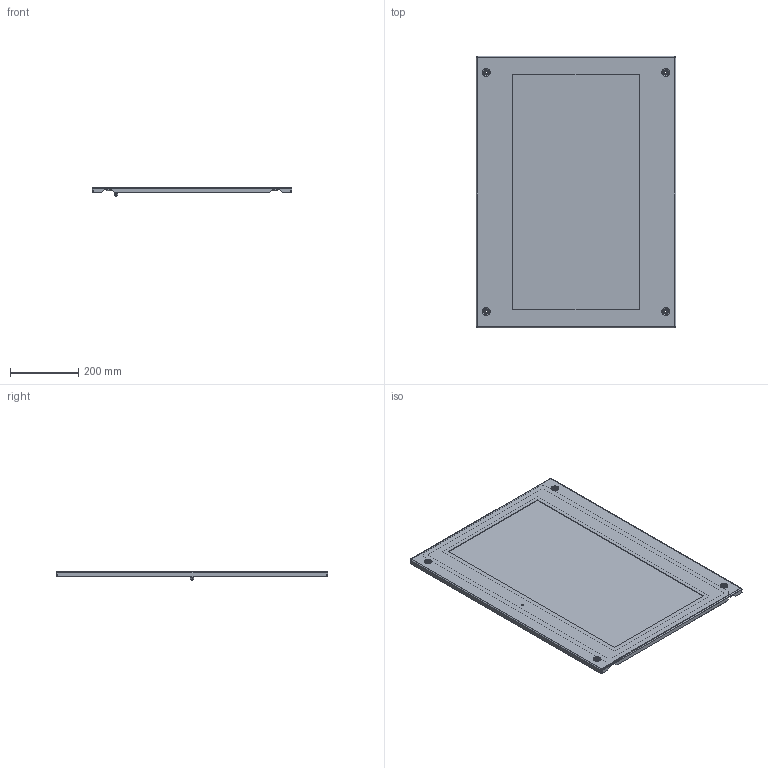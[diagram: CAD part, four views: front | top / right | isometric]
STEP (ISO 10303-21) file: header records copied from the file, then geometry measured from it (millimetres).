
FILE_DESCRIPTION (( 'STEP AP203' ), '1' );
FILE_NAME ('DP 80.60 V Ïàíåëü ñåêöèîííàÿ îáçîðíàÿ.STEP', '2014-06-30T08:30:34', ( 'System' ), ( '' ), 'SwSTEP 2.0', 'SolidWorks 2012', '' );
FILE_SCHEMA (( 'CONFIG_CONTROL_DESIGN' ));
Length unit declared in the file: millimetre
Products named in the file (1): DP 80.60 V Ïàíåëü ñåêöèîííàÿ îáçîðíàÿ
Bounding box: 585 x 794 x 26 mm (x, y, z)
Volume: 1864079.1 mm3; surface area: 1115513.4 mm2
Topology: 4 solids, 4 shells, 176 faces, 401 edges, 240 vertices
Faces by surface type: plane 61, cylinder 43, torus 40, cone 24, sphere 8
Entity records: 4988 total; most frequent: DIRECTION 955, CARTESIAN_POINT 810, ORIENTED_EDGE 786, EDGE_CURVE 393, AXIS2_PLACEMENT_3D 385, VERTEX_POINT 240, CIRCLE 208, EDGE_LOOP 201
